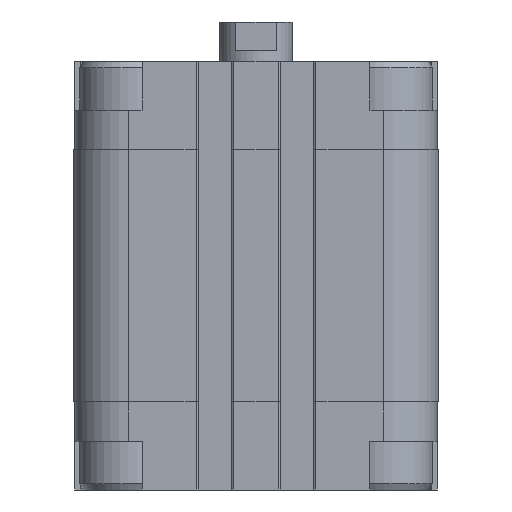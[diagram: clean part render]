
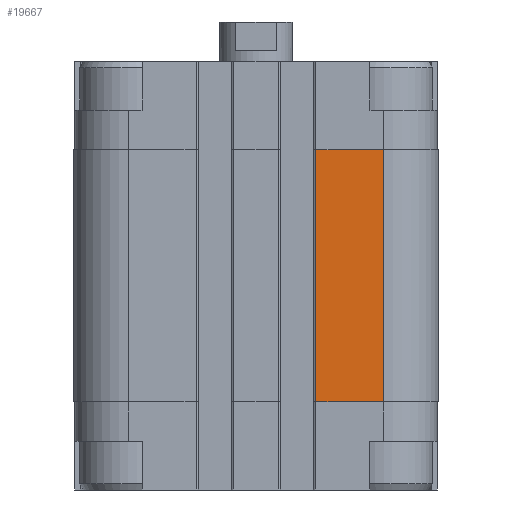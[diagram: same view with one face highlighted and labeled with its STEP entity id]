
A CAD part, front view. The second image highlights one B-rep face of the part: STEP entity #19667.
In plain terms, the highlighted planar face has unit normal (0, -1, 0).
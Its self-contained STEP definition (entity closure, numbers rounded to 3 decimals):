
#781 = CARTESIAN_POINT ( 'NONE',  ( 21., -30., -56. ) ) ;
#1020 = VECTOR ( 'NONE', #3663, 1000. ) ;
#1098 = VECTOR ( 'NONE', #11623, 1000. ) ;
#2008 = ORIENTED_EDGE ( 'NONE', *, *, #14726, .F. ) ;
#2347 = EDGE_CURVE ( 'NONE', #12972, #4349, #8494, .T. ) ;
#3663 = DIRECTION ( 'NONE',  ( 1., 0., 0. ) ) ;
#4349 = VERTEX_POINT ( 'NONE', #22049 ) ;
#5395 = EDGE_CURVE ( 'NONE', #15737, #11279, #17561, .T. ) ;
#6829 = ORIENTED_EDGE ( 'NONE', *, *, #20626, .T. ) ;
#8494 = LINE ( 'NONE', #15668, #1020 ) ;
#8825 = PLANE ( 'NONE',  #13438 ) ;
#9526 = LINE ( 'NONE', #781, #11409 ) ;
#9609 = CARTESIAN_POINT ( 'NONE',  ( 9.85, -30., -56. ) ) ;
#11279 = VERTEX_POINT ( 'NONE', #21520 ) ;
#11409 = VECTOR ( 'NONE', #12569, 1000. ) ;
#11554 = EDGE_LOOP ( 'NONE', ( #21317, #2008, #12094, #6829 ) ) ;
#11623 = DIRECTION ( 'NONE',  ( 0., 0., 1. ) ) ;
#12094 = ORIENTED_EDGE ( 'NONE', *, *, #2347, .T. ) ;
#12569 = DIRECTION ( 'NONE',  ( 0., 0., 1. ) ) ;
#12628 = DIRECTION ( 'NONE',  ( 1., 0., 0. ) ) ;
#12740 = CARTESIAN_POINT ( 'NONE',  ( 9.85, -30., -14.5 ) ) ;
#12861 = CARTESIAN_POINT ( 'NONE',  ( 9.85, -30., -14.5 ) ) ;
#12972 = VERTEX_POINT ( 'NONE', #9609 ) ;
#13438 = AXIS2_PLACEMENT_3D ( 'NONE', #15671, #13777, #20853 ) ;
#13626 = CARTESIAN_POINT ( 'NONE',  ( 9.85, -30., -56. ) ) ;
#13777 = DIRECTION ( 'NONE',  ( 0., -1., 0. ) ) ;
#13878 = FACE_OUTER_BOUND ( 'NONE', #11554, .T. ) ;
#14726 = EDGE_CURVE ( 'NONE', #12972, #15737, #14975, .T. ) ;
#14975 = LINE ( 'NONE', #13626, #1098 ) ;
#15668 = CARTESIAN_POINT ( 'NONE',  ( 9.85, -30., -56. ) ) ;
#15671 = CARTESIAN_POINT ( 'NONE',  ( 9.85, -30., -56. ) ) ;
#15737 = VERTEX_POINT ( 'NONE', #12861 ) ;
#17561 = LINE ( 'NONE', #12740, #18255 ) ;
#18255 = VECTOR ( 'NONE', #12628, 1000. ) ;
#19667 = ADVANCED_FACE ( 'NONE', ( #13878 ), #8825, .T. ) ;
#20626 = EDGE_CURVE ( 'NONE', #4349, #11279, #9526, .T. ) ;
#20853 = DIRECTION ( 'NONE',  ( -1., 0., 0. ) ) ;
#21317 = ORIENTED_EDGE ( 'NONE', *, *, #5395, .F. ) ;
#21520 = CARTESIAN_POINT ( 'NONE',  ( 21., -30., -14.5 ) ) ;
#22049 = CARTESIAN_POINT ( 'NONE',  ( 21., -30., -56. ) ) ;
